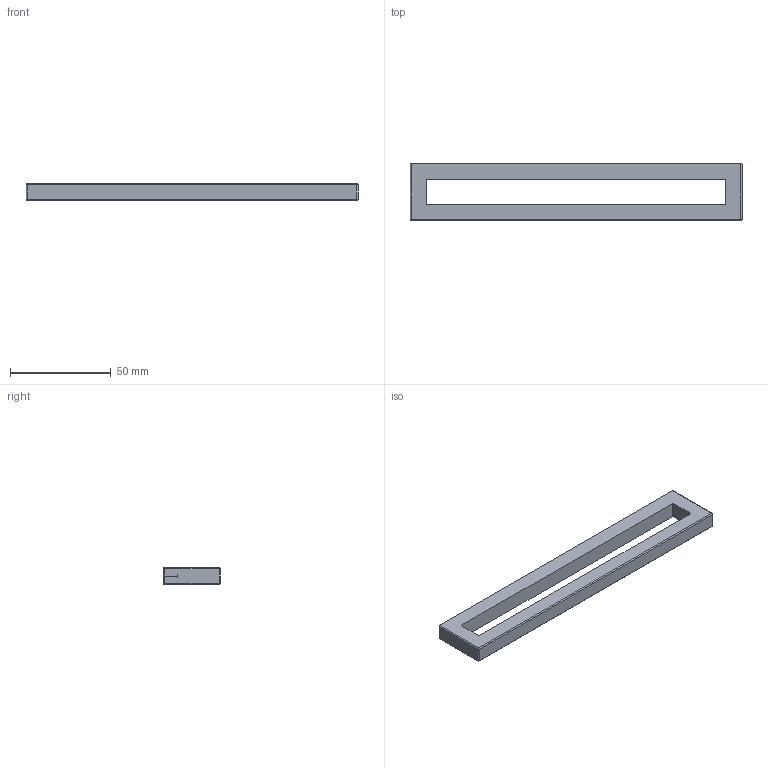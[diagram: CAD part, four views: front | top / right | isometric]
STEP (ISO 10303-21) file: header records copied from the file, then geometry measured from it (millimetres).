
FILE_DESCRIPTION( ( '' ), '1' );
FILE_NAME( 'D:/1.AUTOCAD EXPORT/Group 10/sheet_10_1/9113204.stp', '2013-10-17T04:26:45', ( '' ), ( '' ), ' ', ' ', ' ' );
FILE_SCHEMA( ( 'automotive_design' ) );
Length unit declared in the file: millimetre
Products named in the file (1): 1
Bounding box: 165 x 28 x 8 mm (x, y, z)
Volume: 21860.5 mm3; surface area: 11254.7 mm2
Topology: 1 solids, 1 shells, 30 faces, 76 edges, 48 vertices
Faces by surface type: cylinder 18, plane 12
Entity records: 1796 total; most frequent: DIRECTION 170, STYLED_ITEM 155, PRESENTATION_STYLE_ASSIGNMENT 155, CARTESIAN_POINT 155, COLOUR_RGB 155, ORIENTED_EDGE 152, EDGE_CURVE 76, CURVE_STYLE 76
